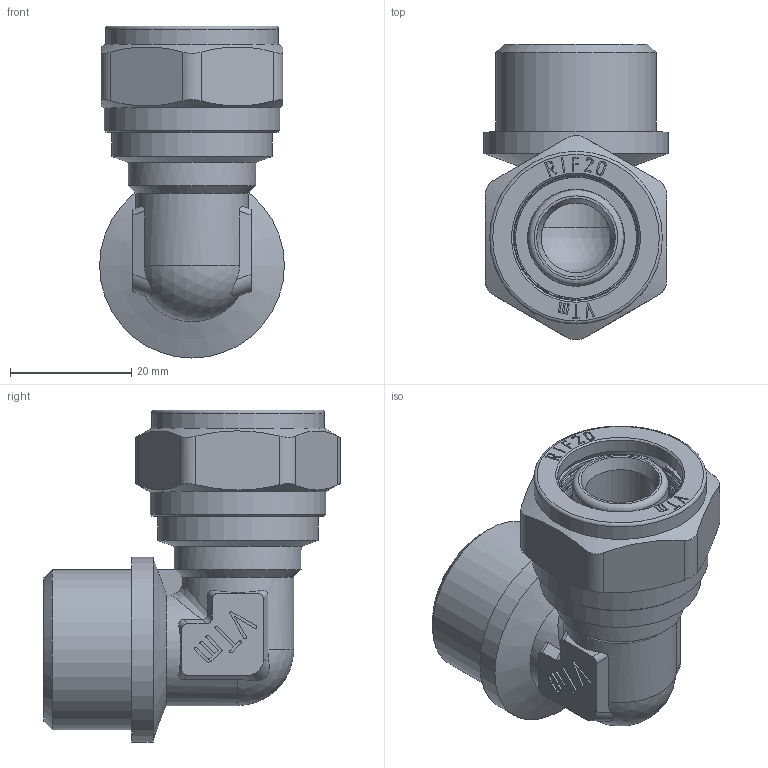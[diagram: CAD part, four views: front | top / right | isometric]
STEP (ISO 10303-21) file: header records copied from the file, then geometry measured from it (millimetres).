
FILE_DESCRIPTION(('STEP AP203'), '1');
FILE_NAME('VTm.353.N.002005', '', ('UNSPECIFIED'), ('UNSPECIFIED'), 'C3D Converter', 'C3D Toolkit', '');
FILE_SCHEMA(('CONFIG_CONTROL_DESIGN'));
Length unit declared in the file: millimetre
Products named in the file (1): ВР.302635.110.000 СБ
Bounding box: 30.5 x 48.85 x 54.78 mm (x, y, z)
Volume: 20112.4 mm3; surface area: 14224.3 mm2
Topology: 1 solids, 1 shells, 451 faces, 1243 edges, 819 vertices
Faces by surface type: extrusion 195, plane 161, cylinder 48, torus 27, cone 16, bspline 2, sphere 2
Full cylindrical faces by diameter (mm): 11.5 x1, 15 x1, 15.8 x4, 15.9 x1, 20 x1, 20.1 x1, 20.2 x1, 20.7 x1, 21 x1, 24.118 x1, 26.441 x2, 28.5 x1, 29 x1, 30.5 x1
Entity records: 16545 total; most frequent: CARTESIAN_POINT 6164, ORIENTED_EDGE 2392, DIRECTION 1496, EDGE_CURVE 1196, VERTEX_POINT 818, VECTOR 760, B_SPLINE_CURVE_WITH_KNOTS 677, LINE 565
